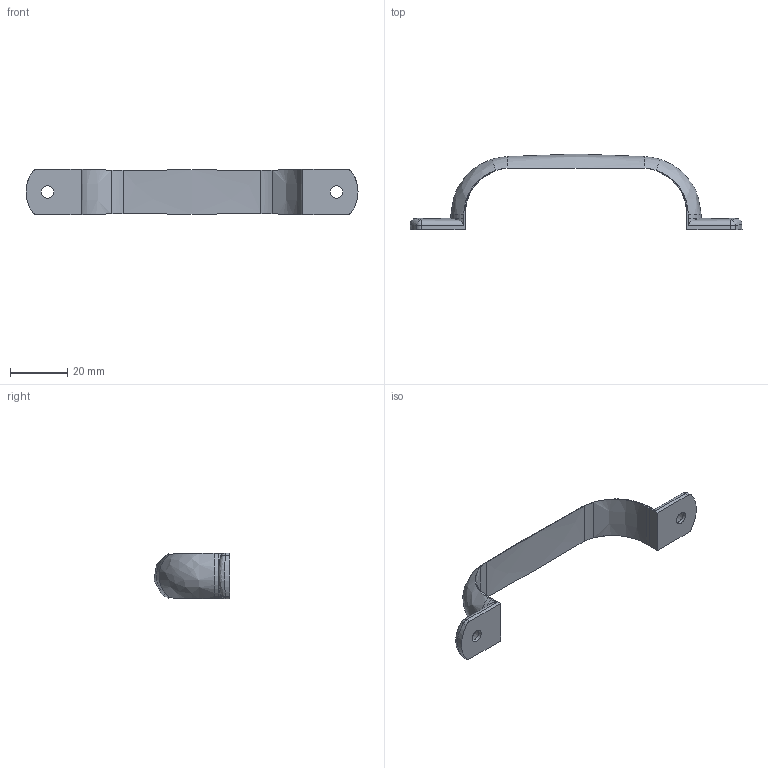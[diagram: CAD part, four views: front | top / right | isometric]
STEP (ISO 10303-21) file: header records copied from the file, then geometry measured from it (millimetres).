
FILE_DESCRIPTION(/* description */ (''),/* implementation_level */ '2;1');
FILE_NAME(/* name */ '\\NAS\db20\A-CC100\DR_A-CC100.stp',/* time_stamp */ '2017-07-07T10:43:21+09:00',/* author */ ('user'),/* organization */ (''),/* preprocessor_version */ 'ST-DEVELOPER v15.6',/* originating_system */ 'Autodesk Inventor 2015',/* authorisation */ '');
FILE_SCHEMA (('AUTOMOTIVE_DESIGN { 1 0 10303 214 3 1 1 }'));
Length unit declared in the file: millimetre
Products named in the file (1): DR_A-CC100
Bounding box: 115.5 x 26.38 x 16 mm (x, y, z)
Volume: 7168.1 mm3; surface area: 5041.6 mm2
Topology: 1 solids, 1 shells, 56 faces, 122 edges, 68 vertices
Faces by surface type: cylinder 18, bspline 16, plane 14, sphere 4, cone 4
Full cylindrical faces by diameter (mm): 4.3 x2
Entity records: 2129 total; most frequent: CARTESIAN_POINT 1014, ORIENTED_EDGE 232, DIRECTION 194, EDGE_CURVE 116, AXIS2_PLACEMENT_3D 71, VERTEX_POINT 66, EDGE_LOOP 64, FACE_OUTER_BOUND 56
